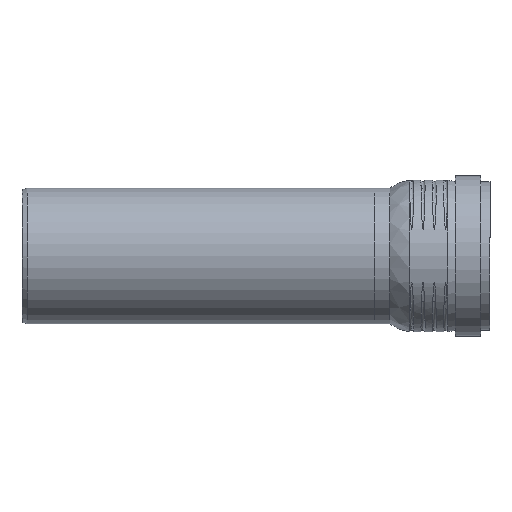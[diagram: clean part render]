
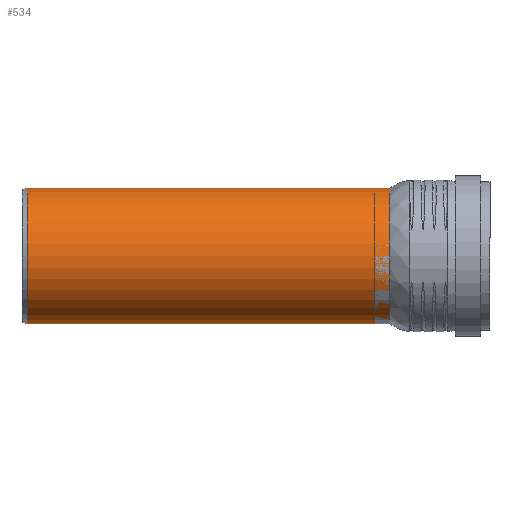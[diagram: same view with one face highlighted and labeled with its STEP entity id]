
A CAD part, top view. The second image highlights one B-rep face of the part: STEP entity #534.
In plain terms, the highlighted cylindrical face has radius 45.1 mm (diameter 90.2 mm), a full revolution.
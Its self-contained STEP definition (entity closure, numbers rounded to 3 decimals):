
#66=CYLINDRICAL_SURFACE('',#580,45.1);
#87=FACE_BOUND('',#158,.T.);
#122=FACE_OUTER_BOUND('',#157,.T.);
#157=EDGE_LOOP('',(#370));
#158=EDGE_LOOP('',(#371));
#222=CIRCLE('',#576,45.1);
#225=CIRCLE('',#581,45.1);
#249=VERTEX_POINT('',#771);
#252=VERTEX_POINT('',#779);
#304=EDGE_CURVE('',#249,#249,#222,.T.);
#307=EDGE_CURVE('',#252,#252,#225,.T.);
#370=ORIENTED_EDGE('',*,*,#307,.F.);
#371=ORIENTED_EDGE('',*,*,#304,.F.);
#534=ADVANCED_FACE('',(#122,#87),#66,.T.);
#576=AXIS2_PLACEMENT_3D('',#772,#643,#644);
#580=AXIS2_PLACEMENT_3D('',#778,#651,#652);
#581=AXIS2_PLACEMENT_3D('',#780,#653,#654);
#643=DIRECTION('center_axis',(-1.,0.,0.));
#644=DIRECTION('ref_axis',(0.,1.,0.));
#651=DIRECTION('center_axis',(1.,0.,0.));
#652=DIRECTION('ref_axis',(0.,1.,0.));
#653=DIRECTION('center_axis',(1.,0.,0.));
#654=DIRECTION('ref_axis',(0.,1.,0.));
#771=CARTESIAN_POINT('',(-119.7,-45.1,0.));
#772=CARTESIAN_POINT('Origin',(-119.7,0.,0.));
#778=CARTESIAN_POINT('Origin',(0.,0.,
0.));
#779=CARTESIAN_POINT('',(123.2,-45.1,0.));
#780=CARTESIAN_POINT('Origin',(123.2,0.,0.));
